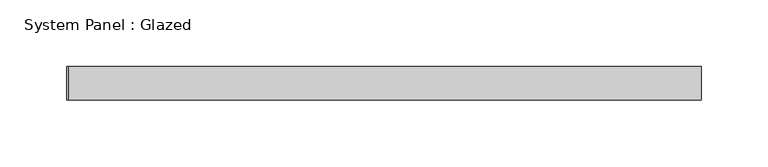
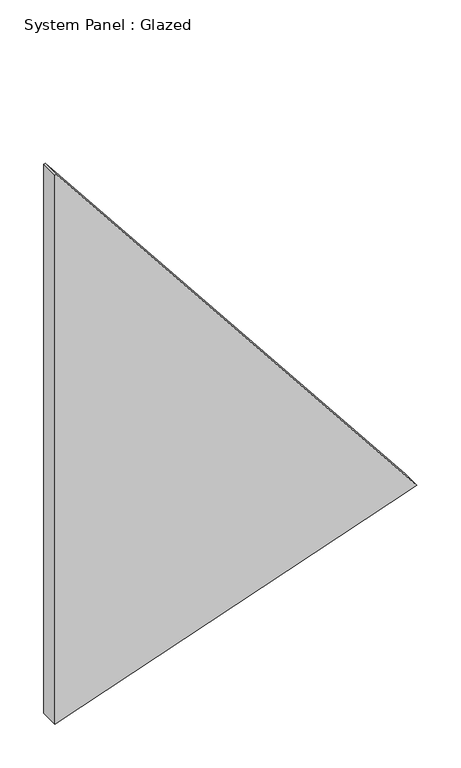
"""IFC4 building model written with IfcOpenShell, lengths in millimetres: plate geometry, System Panel : Glazed."""

from ifc_helpers import new_model, si_unit, frame, origin, place, context, project, spatial, polyline, outline, extrude, source, transform, mapped, element, save


def system_panel_glazed_929f0f65(model_context):
    return source(origin(), model_context, "Body", "SweptSolid", [
        extrude(outline(polyline([(0.0, -237.6758315), (165.5137224, 237.6820289), (763.3943351, -236.0989329), (762.8431207, -237.6820289), (0.0, -237.6758315)])), frame((0.0, -49.5, 0.0), z_axis=(0.0, 1.0, 0.0), x_axis=(0.0, 0.0, 1.0)), (0.0, 0.0, 1.0), 25.0),
    ])


if __name__ == "__main__":
    model = new_model("IFC4")
    model_context = context("Model", 3, world=origin())
    ifc_project = project(units=[si_unit("LENGTHUNIT", "METRE", prefix="MILLI")], contexts=[model_context])
    site = spatial("IfcSite", under=ifc_project)
    building = spatial("IfcBuilding", under=site)
    placement = place(None, origin())
    system_panel_glazed_shape = system_panel_glazed_929f0f65(model_context)
    element("IfcPlate", 1, ObjectType="System Panel : Glazed", at=placement, inside=building, context=model_context, shape_type="MappedRepresentation", body=[
        mapped(system_panel_glazed_shape, transform((0.0, 0.0, 0.0), x_axis=(1.0, 0.0, 0.0), y_axis=(0.0, 1.0, 0.0), z_axis=(0.0, 0.0, 1.0))),
    ])
    save(model, "model.ifc")
